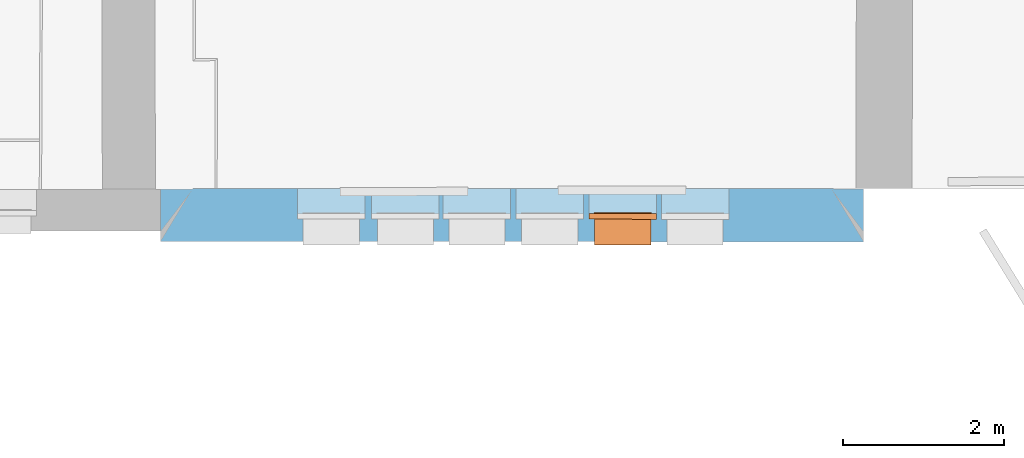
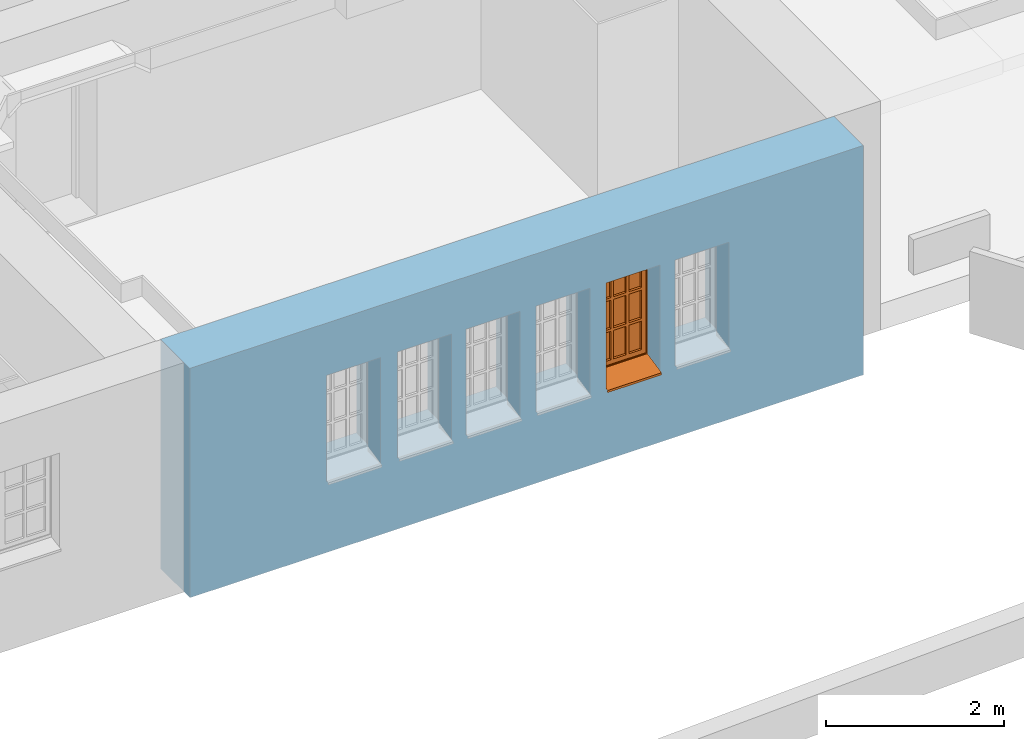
# One storey, part 80 of 196: 1 proxy, 6 openings, plus 1 element that does not belong to this part.
"""IFC2X3 building model written with IfcOpenShell, lengths in metres."""

from ifc_helpers import new_model, entity, si_unit, converted_unit, derived_unit, money_unit, direction, frame, origin_with_axes, origin_2d_with_axis, place, context, subcontext, project, spatial, polyline, rectangle, outline, extrude, boolean, open_shell, faceted_brep, surface_model, material, type_object, element, fill, save


model = new_model("IFC2X3")

# Units and contexts
model_context = context("Model", 3, precision=1e-05, world=origin_with_axes(), true_north=direction((0.0, 1.0)))
body_context = subcontext(model_context, "Body", "Model", "MODEL_VIEW")
ifc_project = project(units=[si_unit("LENGTHUNIT", "METRE"), si_unit("AREAUNIT", "SQUARE_METRE"), si_unit("VOLUMEUNIT", "CUBIC_METRE"), converted_unit("PLANEANGLEUNIT", "DEGREE", entity("IfcPlaneAngleMeasure", 0.0174532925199), si_unit("PLANEANGLEUNIT", "RADIAN"), dimensions=[0, 0, 0, 0, 0, 0, 0]), money_unit("EUR"), converted_unit("TIMEUNIT", "Year", entity("IfcTimeMeasure", 31556926.0), si_unit("TIMEUNIT", "SECOND"), dimensions=[0, 0, 1, 0, 0, 0, 0]), si_unit("MASSUNIT", "GRAM", prefix="KILO"), si_unit("THERMODYNAMICTEMPERATUREUNIT", "DEGREE_CELSIUS"), si_unit("LUMINOUSINTENSITYUNIT", "LUMEN"), si_unit("ENERGYUNIT", "JOULE", prefix="MEGA"), derived_unit("THERMALCONDUCTANCEUNIT", [(si_unit("POWERUNIT", "WATT"), 1), (si_unit("LENGTHUNIT", "METRE"), -1), (si_unit("THERMODYNAMICTEMPERATUREUNIT", "KELVIN"), -1)]), derived_unit("SPECIFICHEATCAPACITYUNIT", [(si_unit("ENERGYUNIT", "JOULE"), 1), (si_unit("MASSUNIT", "GRAM", prefix="KILO"), -1), (si_unit("THERMODYNAMICTEMPERATUREUNIT", "KELVIN"), -1)]), derived_unit("MASSDENSITYUNIT", [(si_unit("MASSUNIT", "GRAM", prefix="KILO"), 1), (si_unit("VOLUMEUNIT", "CUBIC_METRE"), -1)])], contexts=[model_context])

# Site, building, storey
site_placement = place(None, origin_with_axes())
site = spatial("IfcSite", under=ifc_project, at=site_placement, Name="Gelände", CompositionType="ELEMENT")
building_placement = place(site_placement, origin_with_axes())
building = spatial("IfcBuilding", under=site, at=building_placement, Name="Gebäude", CompositionType="ELEMENT")
storey_placement = place(building_placement, frame((0.0, 0.0, -3.0), z_axis=(0.0, 0.0, 1.0), x_axis=(1.0, 0.0, 0.0)))
storey = spatial("IfcBuildingStorey", under=building, at=storey_placement, Name="KELLERGESCHOSS", CompositionType="ELEMENT", Elevation=-3.0)

# Wall, openings, proxy
ifc_material = material(Name="05_ALLGEMEIN - TRAGENDE BAUTEILE")
wall_type = type_object("IfcWallType", Name="05_ALLGEMEIN - TRAGENDE BAUTEILE 660", PredefinedType="ELEMENTEDWALL")
wall_placement = place(storey_placement, frame((3.68030708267, 9.80941916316, -0.36), z_axis=(0.0, 0.0, 1.0), x_axis=(0.999999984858, -0.000174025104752, 0.0)))
wall = element("IfcWall", 1, at=wall_placement, inside=storey, type_object=wall_type, material=ifc_material, Name="Wand-032", ObjectType="ELEMENTEDWALL", context=body_context, shape_type="CSG", body=[
    boolean("DIFFERENCE", extrude(outline(polyline([(0.0, 0.0), (8.74672447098, 0.0), (8.74672447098, 0.66), (0.0, 0.66), (0.0, 0.0)])), origin_with_axes(), (0.0, 0.0, 1.0), 3.15), faceted_brep([(8.36400803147, 0.66, 3.15), (8.36400803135, 0.66, 3.065), (8.74672447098, 0.66, 3.065), (8.74672447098, 0.66, 0.0), (0.0, 0.66, 0.0), (0.0, 0.66, 3.15), (0.396377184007, 0.651638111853, 3.15), (0.396377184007, 0.651638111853, 0.0), (8.3467354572, 0.659981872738, 0.0), (8.3467354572, 0.659981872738, 3.065), (8.74672447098, 0.0, 3.065), (8.74672447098, 0.0, 0.0), (0.0, 0.0, 0.0), (0.0, 0.0, 3.15)], [[[0, 1, 2, 3, 4, 5]], [[1, 0, 6, 7, 8, 9]], [[10, 2, 1, 9]], [[10, 11, 3, 2]], [[7, 12, 4, 3, 11, 8]], [[12, 13, 5, 4]], [[6, 0, 5, 13]], [[6, 13, 12, 7]], [[11, 10, 9, 8]]])),
])
opening_1_placement = place(wall_placement, frame((6.65087656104, 0.0, 0.977921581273), z_axis=(0.0, 0.0, 1.0), x_axis=(1.0, 0.0, 0.0)))
element("IfcOpeningElement", 2, at=opening_1_placement, cuts=wall, Name="Fenster-015", context=body_context, shape_type="SweptSolid", body=[
    extrude(rectangle(XDim=0.840207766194, YDim=1.52470991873, at=origin_2d_with_axis()), frame((0.0, 0.28, 0.762354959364), z_axis=(0.0, -1.0, 0.0), x_axis=(1.0, 0.0, 0.0)), (0.0, 0.0, -1.0), 1.04),
    extrude(rectangle(XDim=0.700207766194, YDim=1.45470991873, at=origin_2d_with_axis()), frame((0.0, 0.28, 0.727354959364), z_axis=(0.0, 1.0, 0.0), x_axis=(1.0, 0.0, 0.0)), (0.0, 0.0, -1.0), 0.94),
])
opening_2_placement = place(wall_placement, frame((5.75227144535, 0.0, 0.977921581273), z_axis=(0.0, 0.0, 1.0), x_axis=(1.0, 0.0, 0.0)))
opening_2 = element("IfcOpeningElement", 3, at=opening_2_placement, cuts=wall, Name="Fenster-015", context=body_context, shape_type="SweptSolid", body=[
    extrude(rectangle(XDim=0.840207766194, YDim=1.52470991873, at=origin_2d_with_axis()), frame((0.0, 0.28, 0.762354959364), z_axis=(0.0, -1.0, 0.0), x_axis=(1.0, 0.0, 0.0)), (0.0, 0.0, -1.0), 1.04),
    extrude(rectangle(XDim=0.700207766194, YDim=1.45470991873, at=origin_2d_with_axis()), frame((0.0, 0.28, 0.727354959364), z_axis=(0.0, 1.0, 0.0), x_axis=(1.0, 0.0, 0.0)), (0.0, 0.0, -1.0), 0.94),
])
opening_3_placement = place(wall_placement, frame((2.12414616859, 0.0, 0.977921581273), z_axis=(0.0, 0.0, 1.0), x_axis=(1.0, 0.0, 0.0)))
element("IfcOpeningElement", 4, at=opening_3_placement, cuts=wall, Name="Fenster-015", context=body_context, shape_type="SweptSolid", body=[
    extrude(rectangle(XDim=0.840207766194, YDim=1.52470991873, at=origin_2d_with_axis()), frame((0.0, 0.28, 0.762354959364), z_axis=(0.0, -1.0, 0.0), x_axis=(1.0, 0.0, 0.0)), (0.0, 0.0, -1.0), 1.04),
    extrude(rectangle(XDim=0.700207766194, YDim=1.45470991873, at=origin_2d_with_axis()), frame((0.0, 0.28, 0.727354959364), z_axis=(0.0, 1.0, 0.0), x_axis=(1.0, 0.0, 0.0)), (0.0, 0.0, -1.0), 0.94),
])
opening_4_placement = place(wall_placement, frame((3.04781651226, 0.0, 0.977921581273), z_axis=(0.0, 0.0, 1.0), x_axis=(1.0, 0.0, 0.0)))
element("IfcOpeningElement", 5, at=opening_4_placement, cuts=wall, Name="Fenster-015", context=body_context, shape_type="SweptSolid", body=[
    extrude(rectangle(XDim=0.840207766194, YDim=1.52470991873, at=origin_2d_with_axis()), frame((0.0, 0.28, 0.762354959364), z_axis=(0.0, -1.0, 0.0), x_axis=(1.0, 0.0, 0.0)), (0.0, 0.0, -1.0), 1.04),
    extrude(rectangle(XDim=0.700207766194, YDim=1.45470991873, at=origin_2d_with_axis()), frame((0.0, 0.28, 0.727354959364), z_axis=(0.0, 1.0, 0.0), x_axis=(1.0, 0.0, 0.0)), (0.0, 0.0, -1.0), 0.94),
])
opening_5_placement = place(wall_placement, frame((3.9368208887, 0.0, 0.977921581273), z_axis=(0.0, 0.0, 1.0), x_axis=(1.0, 0.0, 0.0)))
element("IfcOpeningElement", 6, at=opening_5_placement, cuts=wall, Name="Fenster-015", context=body_context, shape_type="SweptSolid", body=[
    extrude(rectangle(XDim=0.840207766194, YDim=1.52470991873, at=origin_2d_with_axis()), frame((0.0, 0.28, 0.762354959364), z_axis=(0.0, -1.0, 0.0), x_axis=(1.0, 0.0, 0.0)), (0.0, 0.0, -1.0), 1.04),
    extrude(rectangle(XDim=0.700207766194, YDim=1.45470991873, at=origin_2d_with_axis()), frame((0.0, 0.28, 0.727354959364), z_axis=(0.0, 1.0, 0.0), x_axis=(1.0, 0.0, 0.0)), (0.0, 0.0, -1.0), 0.94),
])
opening_6_placement = place(wall_placement, frame((4.8431156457, 0.0, 0.977921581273), z_axis=(0.0, 0.0, 1.0), x_axis=(1.0, 0.0, 0.0)))
element("IfcOpeningElement", 7, at=opening_6_placement, cuts=wall, Name="Fenster-015", context=body_context, shape_type="SweptSolid", body=[
    extrude(rectangle(XDim=0.840207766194, YDim=1.52470991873, at=origin_2d_with_axis()), frame((0.0, 0.28, 0.762354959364), z_axis=(0.0, -1.0, 0.0), x_axis=(1.0, 0.0, 0.0)), (0.0, 0.0, -1.0), 1.04),
    extrude(rectangle(XDim=0.700207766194, YDim=1.45470991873, at=origin_2d_with_axis()), frame((0.0, 0.28, 0.727354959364), z_axis=(0.0, 1.0, 0.0), x_axis=(1.0, 0.0, 0.0)), (0.0, 0.0, -1.0), 0.94),
])
building_element_proxy_type = type_object("IfcBuildingElementProxyType", Name="1-Flügelfenster 25", PredefinedType="NOTDEFINED")
proxy_placement = place(opening_2_placement, frame((-0.420103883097, 0.0, 0.0), z_axis=(0.0, 0.0, 1.0), x_axis=(1.0, 0.0, 0.0)))
proxy = element("IfcBuildingElementProxy", 8, at=proxy_placement, inside=storey, type_object=building_element_proxy_type, Name="Fenster-015", context=body_context, shape_type="SurfaceModel", body=[
    surface_model("IfcShellBasedSurfaceModel", [(0.07, 0.279, 0.08), (0.07, 0.279, 0.07), (0.770207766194, 0.279, 0.07), (0.770207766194, 0.279, 0.08), (0.07, -0.04, 0.00142857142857), (0.770207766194, -0.04, 0.00142857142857), (0.07, -0.04, -0.0285714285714), (0.770207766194, -0.04, -0.0285714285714), (0.07, -0.025, -0.0135714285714), (0.770207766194, -0.025, -0.0135714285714)], [open_shell([[[0, 1, 2, 3]], [[1, 4, 5, 2]], [[4, 6, 7, 5]], [[6, 8, 9, 7]]])]),
    faceted_brep([(0.07, 0.28, 0.0689771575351), (0.07, 0.0, 0.00878906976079), (0.770207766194, 0.0, 0.00878906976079), (0.770207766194, 0.28, 0.0689771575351), (0.07, 0.28, 0.0), (0.07, 0.0, 0.0), (0.770207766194, 0.0, 0.0), (0.770207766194, 0.28, 0.0)], [[[0, 1, 2, 3]], [[0, 4, 5, 1]], [[1, 5, 6, 2]], [[3, 2, 6, 7]], [[4, 0, 3, 7]], [[5, 4, 7, 6]]]),
    faceted_brep([(0.0, 0.28, 0.0), (0.0, 0.35, 0.0), (0.08, 0.35, 0.08), (0.08, 0.28, 0.08), (0.0, 0.28, 1.52470991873), (0.0, 0.35, 1.52470991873), (0.08, 0.35, 1.44470991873), (0.08, 0.28, 1.44470991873)], [[[0, 1, 2, 3]], [[4, 5, 1, 0]], [[1, 5, 6, 2]], [[3, 2, 6, 7]], [[0, 3, 7, 4]], [[7, 6, 5, 4]]]),
    faceted_brep([(0.840207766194, 0.28, 0.0), (0.840207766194, 0.35, 0.0), (0.840207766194, 0.35, 1.52470991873), (0.840207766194, 0.28, 1.52470991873), (0.760207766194, 0.28, 0.08), (0.760207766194, 0.35, 0.08), (0.760207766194, 0.35, 1.44470991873), (0.760207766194, 0.28, 1.44470991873)], [[[0, 1, 2, 3]], [[4, 5, 1, 0]], [[1, 5, 6, 2]], [[3, 2, 6, 7]], [[0, 3, 7, 4]], [[7, 6, 5, 4]]]),
    faceted_brep([(0.0, 0.28, 0.0), (0.0, 0.35, 0.0), (0.840207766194, 0.35, 0.0), (0.840207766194, 0.28, 0.0), (0.08, 0.28, 0.08), (0.08, 0.35, 0.08), (0.420103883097, 0.35, 0.08), (0.760207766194, 0.35, 0.08), (0.760207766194, 0.28, 0.08), (0.420103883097, 0.28, 0.08)], [[[0, 1, 2, 3]], [[4, 5, 1, 0]], [[1, 5, 6, 7, 2]], [[3, 2, 7, 8]], [[0, 3, 8, 9, 4]], [[9, 6, 5, 4]], [[8, 7, 6, 9]]]),
    faceted_brep([(0.0, 0.28, 1.52470991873), (0.0, 0.35, 1.52470991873), (0.08, 0.35, 1.44470991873), (0.08, 0.28, 1.44470991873), (0.840207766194, 0.28, 1.52470991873), (0.840207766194, 0.35, 1.52470991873), (0.760207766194, 0.35, 1.44470991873), (0.420103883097, 0.35, 1.44470991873), (0.420103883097, 0.28, 1.44470991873), (0.760207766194, 0.28, 1.44470991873)], [[[0, 1, 2, 3]], [[4, 5, 1, 0]], [[1, 5, 6, 7, 2]], [[3, 2, 7, 8]], [[0, 3, 8, 9, 4]], [[9, 6, 5, 4]], [[8, 7, 6, 9]]]),
    faceted_brep([(0.06, 0.35, 0.06), (0.06, 0.363, 0.06), (0.14, 0.363, 0.14), (0.14, 0.35, 0.14), (0.06, 0.35, 1.46470991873), (0.06, 0.363, 1.46470991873), (0.14, 0.363, 1.38470991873), (0.14, 0.35, 1.38470991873)], [[[0, 1, 2, 3]], [[4, 5, 1, 0]], [[1, 5, 6, 2]], [[3, 2, 6, 7]], [[0, 3, 7, 4]], [[7, 6, 5, 4]]]),
    faceted_brep([(0.780207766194, 0.35, 0.06), (0.700207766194, 0.35, 0.14), (0.700207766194, 0.363, 0.14), (0.780207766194, 0.363, 0.06), (0.780207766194, 0.35, 1.46470991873), (0.700207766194, 0.35, 1.38470991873), (0.700207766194, 0.363, 1.38470991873), (0.780207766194, 0.363, 1.46470991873)], [[[0, 1, 2, 3]], [[0, 4, 5, 1]], [[1, 5, 6, 2]], [[3, 2, 6, 7]], [[4, 0, 3, 7]], [[5, 4, 7, 6]]]),
    faceted_brep([(0.06, 0.35, 0.06), (0.06, 0.363, 0.06), (0.780207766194, 0.363, 0.06), (0.780207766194, 0.35, 0.06), (0.14, 0.35, 0.14), (0.14, 0.363, 0.14), (0.700207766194, 0.363, 0.14), (0.700207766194, 0.35, 0.14)], [[[0, 1, 2, 3]], [[4, 5, 1, 0]], [[1, 5, 6, 2]], [[3, 2, 6, 7]], [[0, 3, 7, 4]], [[7, 6, 5, 4]]]),
    faceted_brep([(0.06, 0.35, 1.46470991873), (0.780207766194, 0.35, 1.46470991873), (0.780207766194, 0.363, 1.46470991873), (0.06, 0.363, 1.46470991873), (0.14, 0.35, 1.38470991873), (0.700207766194, 0.35, 1.38470991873), (0.700207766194, 0.363, 1.38470991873), (0.14, 0.363, 1.38470991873)], [[[0, 1, 2, 3]], [[0, 4, 5, 1]], [[1, 5, 6, 2]], [[3, 2, 6, 7]], [[4, 0, 3, 7]], [[5, 4, 7, 6]]]),
    faceted_brep([(0.08, 0.293, 0.08), (0.08, 0.35, 0.08), (0.14, 0.35, 0.14), (0.14, 0.293, 0.14), (0.08, 0.293, 1.44470991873), (0.08, 0.35, 1.44470991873), (0.14, 0.35, 1.38470991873), (0.14, 0.293, 1.38470991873)], [[[0, 1, 2, 3]], [[4, 5, 1, 0]], [[1, 5, 6, 2]], [[3, 2, 6, 7]], [[0, 3, 7, 4]], [[7, 6, 5, 4]]]),
    faceted_brep([(0.760207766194, 0.293, 0.08), (0.700207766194, 0.293, 0.14), (0.700207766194, 0.35, 0.14), (0.760207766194, 0.35, 0.08), (0.760207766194, 0.293, 1.44470991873), (0.700207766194, 0.293, 1.38470991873), (0.700207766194, 0.35, 1.38470991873), (0.760207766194, 0.35, 1.44470991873)], [[[0, 1, 2, 3]], [[0, 4, 5, 1]], [[1, 5, 6, 2]], [[3, 2, 6, 7]], [[4, 0, 3, 7]], [[5, 4, 7, 6]]]),
    faceted_brep([(0.08, 0.293, 0.08), (0.08, 0.35, 0.08), (0.760207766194, 0.35, 0.08), (0.760207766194, 0.293, 0.08), (0.14, 0.293, 0.14), (0.14, 0.35, 0.14), (0.700207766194, 0.35, 0.14), (0.700207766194, 0.293, 0.14)], [[[0, 1, 2, 3]], [[4, 5, 1, 0]], [[1, 5, 6, 2]], [[3, 2, 6, 7]], [[0, 3, 7, 4]], [[7, 6, 5, 4]]]),
    faceted_brep([(0.08, 0.293, 1.44470991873), (0.760207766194, 0.293, 1.44470991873), (0.760207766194, 0.35, 1.44470991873), (0.08, 0.35, 1.44470991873), (0.14, 0.293, 1.38470991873), (0.700207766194, 0.293, 1.38470991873), (0.700207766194, 0.35, 1.38470991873), (0.14, 0.35, 1.38470991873)], [[[0, 1, 2, 3]], [[0, 4, 5, 1]], [[1, 5, 6, 2]], [[3, 2, 6, 7]], [[4, 0, 3, 7]], [[5, 4, 7, 6]]]),
    faceted_brep([(0.303402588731, 0.293, 0.14), (0.303402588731, 0.328, 0.14), (0.338402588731, 0.328, 0.14), (0.338402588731, 0.293, 0.14), (0.303402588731, 0.293, 1.38470991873), (0.303402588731, 0.328, 1.38470991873), (0.338402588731, 0.328, 1.38470991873), (0.338402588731, 0.293, 1.38470991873)], [[[0, 1, 2, 3]], [[4, 5, 1, 0]], [[1, 5, 6, 2]], [[3, 2, 6, 7]], [[0, 3, 7, 4]], [[7, 6, 5, 4]]]),
    faceted_brep([(0.303402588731, 0.328, 0.14), (0.303402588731, 0.363, 0.14), (0.338402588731, 0.363, 0.14), (0.338402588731, 0.328, 0.14), (0.303402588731, 0.328, 1.38470991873), (0.303402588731, 0.363, 1.38470991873), (0.338402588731, 0.363, 1.38470991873), (0.338402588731, 0.328, 1.38470991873)], [[[0, 1, 2, 3]], [[4, 5, 1, 0]], [[1, 5, 6, 2]], [[3, 2, 6, 7]], [[0, 3, 7, 4]], [[7, 6, 5, 4]]]),
    faceted_brep([(0.501805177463, 0.293, 0.14), (0.501805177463, 0.328, 0.14), (0.536805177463, 0.328, 0.14), (0.536805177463, 0.293, 0.14), (0.501805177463, 0.293, 1.38470991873), (0.501805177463, 0.328, 1.38470991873), (0.536805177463, 0.328, 1.38470991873), (0.536805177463, 0.293, 1.38470991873)], [[[0, 1, 2, 3]], [[4, 5, 1, 0]], [[1, 5, 6, 2]], [[3, 2, 6, 7]], [[0, 3, 7, 4]], [[7, 6, 5, 4]]]),
    faceted_brep([(0.501805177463, 0.328, 0.14), (0.501805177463, 0.363, 0.14), (0.536805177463, 0.363, 0.14), (0.536805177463, 0.328, 0.14), (0.501805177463, 0.328, 1.38470991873), (0.501805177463, 0.363, 1.38470991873), (0.536805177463, 0.363, 1.38470991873), (0.536805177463, 0.328, 1.38470991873)], [[[0, 1, 2, 3]], [[4, 5, 1, 0]], [[1, 5, 6, 2]], [[3, 2, 6, 7]], [[0, 3, 7, 4]], [[7, 6, 5, 4]]]),
    faceted_brep([(0.501805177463, 0.293, 0.531569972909), (0.501805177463, 0.293, 0.566569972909), (0.338402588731, 0.293, 0.566569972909), (0.338402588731, 0.293, 0.531569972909), (0.501805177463, 0.328, 0.566569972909), (0.501805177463, 0.328, 0.531569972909), (0.338402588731, 0.328, 0.566569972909), (0.338402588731, 0.328, 0.531569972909)], [[[0, 1, 2, 3]], [[4, 1, 0, 5]], [[1, 4, 6, 2]], [[2, 6, 7, 3]], [[5, 0, 3, 7]], [[4, 5, 7, 6]]]),
    faceted_brep([(0.14, 0.293, 0.566569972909), (0.14, 0.293, 0.531569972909), (0.303402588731, 0.293, 0.531569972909), (0.303402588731, 0.293, 0.566569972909), (0.14, 0.328, 0.566569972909), (0.14, 0.328, 0.531569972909), (0.303402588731, 0.328, 0.531569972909), (0.303402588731, 0.328, 0.566569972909)], [[[0, 1, 2, 3]], [[1, 0, 4, 5]], [[1, 5, 6, 2]], [[2, 6, 7, 3]], [[4, 0, 3, 7]], [[5, 4, 7, 6]]]),
    faceted_brep([(0.536805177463, 0.328, 0.566569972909), (0.536805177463, 0.293, 0.566569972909), (0.700207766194, 0.293, 0.566569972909), (0.700207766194, 0.328, 0.566569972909), (0.536805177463, 0.293, 0.531569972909), (0.536805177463, 0.328, 0.531569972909), (0.700207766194, 0.293, 0.531569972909), (0.700207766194, 0.328, 0.531569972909)], [[[0, 1, 2, 3]], [[4, 1, 0, 5]], [[1, 4, 6, 2]], [[3, 2, 6, 7]], [[5, 0, 3, 7]], [[4, 5, 7, 6]]]),
    faceted_brep([(0.501805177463, 0.328, 0.531569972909), (0.501805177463, 0.328, 0.566569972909), (0.338402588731, 0.328, 0.566569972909), (0.338402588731, 0.328, 0.531569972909), (0.501805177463, 0.363, 0.566569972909), (0.501805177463, 0.363, 0.531569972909), (0.338402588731, 0.363, 0.566569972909), (0.338402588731, 0.363, 0.531569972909)], [[[0, 1, 2, 3]], [[4, 1, 0, 5]], [[1, 4, 6, 2]], [[2, 6, 7, 3]], [[5, 0, 3, 7]], [[4, 5, 7, 6]]]),
    faceted_brep([(0.14, 0.328, 0.566569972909), (0.14, 0.328, 0.531569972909), (0.303402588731, 0.328, 0.531569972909), (0.303402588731, 0.328, 0.566569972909), (0.14, 0.363, 0.566569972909), (0.14, 0.363, 0.531569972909), (0.303402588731, 0.363, 0.531569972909), (0.303402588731, 0.363, 0.566569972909)], [[[0, 1, 2, 3]], [[1, 0, 4, 5]], [[1, 5, 6, 2]], [[2, 6, 7, 3]], [[4, 0, 3, 7]], [[5, 4, 7, 6]]]),
    faceted_brep([(0.536805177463, 0.363, 0.566569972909), (0.536805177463, 0.328, 0.566569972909), (0.700207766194, 0.328, 0.566569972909), (0.700207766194, 0.363, 0.566569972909), (0.536805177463, 0.328, 0.531569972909), (0.536805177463, 0.363, 0.531569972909), (0.700207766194, 0.328, 0.531569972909), (0.700207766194, 0.363, 0.531569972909)], [[[0, 1, 2, 3]], [[4, 1, 0, 5]], [[1, 4, 6, 2]], [[3, 2, 6, 7]], [[5, 0, 3, 7]], [[4, 5, 7, 6]]]),
    faceted_brep([(0.501805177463, 0.293, 0.958139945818), (0.501805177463, 0.293, 0.993139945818), (0.338402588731, 0.293, 0.993139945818), (0.338402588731, 0.293, 0.958139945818), (0.501805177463, 0.328, 0.993139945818), (0.501805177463, 0.328, 0.958139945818), (0.338402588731, 0.328, 0.993139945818), (0.338402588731, 0.328, 0.958139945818)], [[[0, 1, 2, 3]], [[4, 1, 0, 5]], [[1, 4, 6, 2]], [[2, 6, 7, 3]], [[5, 0, 3, 7]], [[4, 5, 7, 6]]]),
    faceted_brep([(0.14, 0.293, 0.993139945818), (0.14, 0.293, 0.958139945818), (0.303402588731, 0.293, 0.958139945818), (0.303402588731, 0.293, 0.993139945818), (0.14, 0.328, 0.993139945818), (0.14, 0.328, 0.958139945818), (0.303402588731, 0.328, 0.958139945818), (0.303402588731, 0.328, 0.993139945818)], [[[0, 1, 2, 3]], [[1, 0, 4, 5]], [[1, 5, 6, 2]], [[2, 6, 7, 3]], [[4, 0, 3, 7]], [[5, 4, 7, 6]]]),
    faceted_brep([(0.536805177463, 0.328, 0.993139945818), (0.536805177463, 0.293, 0.993139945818), (0.700207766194, 0.293, 0.993139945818), (0.700207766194, 0.328, 0.993139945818), (0.536805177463, 0.293, 0.958139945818), (0.536805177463, 0.328, 0.958139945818), (0.700207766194, 0.293, 0.958139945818), (0.700207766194, 0.328, 0.958139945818)], [[[0, 1, 2, 3]], [[4, 1, 0, 5]], [[1, 4, 6, 2]], [[3, 2, 6, 7]], [[5, 0, 3, 7]], [[4, 5, 7, 6]]]),
    faceted_brep([(0.501805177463, 0.328, 0.958139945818), (0.501805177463, 0.328, 0.993139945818), (0.338402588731, 0.328, 0.993139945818), (0.338402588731, 0.328, 0.958139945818), (0.501805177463, 0.363, 0.993139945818), (0.501805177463, 0.363, 0.958139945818), (0.338402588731, 0.363, 0.993139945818), (0.338402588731, 0.363, 0.958139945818)], [[[0, 1, 2, 3]], [[4, 1, 0, 5]], [[1, 4, 6, 2]], [[2, 6, 7, 3]], [[5, 0, 3, 7]], [[4, 5, 7, 6]]]),
    faceted_brep([(0.14, 0.328, 0.993139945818), (0.14, 0.328, 0.958139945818), (0.303402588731, 0.328, 0.958139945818), (0.303402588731, 0.328, 0.993139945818), (0.14, 0.363, 0.993139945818), (0.14, 0.363, 0.958139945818), (0.303402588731, 0.363, 0.958139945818), (0.303402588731, 0.363, 0.993139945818)], [[[0, 1, 2, 3]], [[1, 0, 4, 5]], [[1, 5, 6, 2]], [[2, 6, 7, 3]], [[4, 0, 3, 7]], [[5, 4, 7, 6]]]),
    faceted_brep([(0.536805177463, 0.363, 0.993139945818), (0.536805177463, 0.328, 0.993139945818), (0.700207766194, 0.328, 0.993139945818), (0.700207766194, 0.363, 0.993139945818), (0.536805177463, 0.328, 0.958139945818), (0.536805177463, 0.363, 0.958139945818), (0.700207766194, 0.328, 0.958139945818), (0.700207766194, 0.363, 0.958139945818)], [[[0, 1, 2, 3]], [[4, 1, 0, 5]], [[1, 4, 6, 2]], [[3, 2, 6, 7]], [[5, 0, 3, 7]], [[4, 5, 7, 6]]]),
    faceted_brep([(0.303402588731, 0.333, 0.958139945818), (0.303402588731, 0.323, 0.958139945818), (0.303402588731, 0.323, 0.566569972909), (0.303402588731, 0.333, 0.566569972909), (0.14, 0.323, 0.958139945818), (0.14, 0.333, 0.958139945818), (0.14, 0.323, 0.566569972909), (0.14, 0.333, 0.566569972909)], [[[0, 1, 2, 3]], [[4, 1, 0, 5]], [[1, 4, 6, 2]], [[2, 6, 7, 3]], [[5, 0, 3, 7]], [[4, 5, 7, 6]]]),
    faceted_brep([(0.700207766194, 0.323, 0.14), (0.700207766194, 0.333, 0.14), (0.700207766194, 0.333, 0.531569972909), (0.700207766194, 0.323, 0.531569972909), (0.536805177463, 0.323, 0.14), (0.536805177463, 0.333, 0.14), (0.536805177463, 0.333, 0.531569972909), (0.536805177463, 0.323, 0.531569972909)], [[[0, 1, 2, 3]], [[0, 4, 5, 1]], [[1, 5, 6, 2]], [[2, 6, 7, 3]], [[4, 0, 3, 7]], [[5, 4, 7, 6]]]),
    faceted_brep([(0.501805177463, 0.323, 0.14), (0.501805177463, 0.333, 0.14), (0.501805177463, 0.333, 0.531569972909), (0.501805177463, 0.323, 0.531569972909), (0.338402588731, 0.333, 0.14), (0.338402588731, 0.323, 0.14), (0.338402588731, 0.333, 0.531569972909), (0.338402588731, 0.323, 0.531569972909)], [[[0, 1, 2, 3]], [[4, 1, 0, 5]], [[1, 4, 6, 2]], [[2, 6, 7, 3]], [[5, 0, 3, 7]], [[4, 5, 7, 6]]]),
    faceted_brep([(0.303402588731, 0.323, 0.14), (0.303402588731, 0.333, 0.14), (0.303402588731, 0.333, 0.531569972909), (0.303402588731, 0.323, 0.531569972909), (0.14, 0.323, 0.14), (0.14, 0.333, 0.14), (0.14, 0.333, 0.531569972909), (0.14, 0.323, 0.531569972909)], [[[0, 1, 2, 3]], [[0, 4, 5, 1]], [[1, 5, 6, 2]], [[2, 6, 7, 3]], [[4, 0, 3, 7]], [[5, 4, 7, 6]]]),
    faceted_brep([(0.700207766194, 0.333, 0.958139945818), (0.700207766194, 0.323, 0.958139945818), (0.700207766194, 0.323, 0.566569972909), (0.700207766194, 0.333, 0.566569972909), (0.536805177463, 0.323, 0.958139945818), (0.536805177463, 0.333, 0.958139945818), (0.536805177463, 0.323, 0.566569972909), (0.536805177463, 0.333, 0.566569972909)], [[[0, 1, 2, 3]], [[4, 1, 0, 5]], [[1, 4, 6, 2]], [[2, 6, 7, 3]], [[5, 0, 3, 7]], [[4, 5, 7, 6]]]),
    faceted_brep([(0.501805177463, 0.333, 0.958139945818), (0.501805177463, 0.323, 0.958139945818), (0.501805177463, 0.323, 0.566569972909), (0.501805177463, 0.333, 0.566569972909), (0.338402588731, 0.323, 0.958139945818), (0.338402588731, 0.333, 0.958139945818), (0.338402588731, 0.323, 0.566569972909), (0.338402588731, 0.333, 0.566569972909)], [[[0, 1, 2, 3]], [[4, 1, 0, 5]], [[1, 4, 6, 2]], [[2, 6, 7, 3]], [[5, 0, 3, 7]], [[4, 5, 7, 6]]]),
    faceted_brep([(0.14, 0.323, 0.993139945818), (0.303402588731, 0.323, 0.993139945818), (0.303402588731, 0.323, 1.38470991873), (0.14, 0.323, 1.38470991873), (0.303402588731, 0.333, 0.993139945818), (0.14, 0.333, 0.993139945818), (0.303402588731, 0.333, 1.38470991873), (0.14, 0.333, 1.38470991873)], [[[0, 1, 2, 3]], [[4, 1, 0, 5]], [[1, 4, 6, 2]], [[2, 6, 7, 3]], [[5, 0, 3, 7]], [[4, 5, 7, 6]]]),
    faceted_brep([(0.536805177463, 0.323, 0.993139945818), (0.700207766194, 0.323, 0.993139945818), (0.700207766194, 0.323, 1.38470991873), (0.536805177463, 0.323, 1.38470991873), (0.700207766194, 0.333, 0.993139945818), (0.536805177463, 0.333, 0.993139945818), (0.700207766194, 0.333, 1.38470991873), (0.536805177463, 0.333, 1.38470991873)], [[[0, 1, 2, 3]], [[4, 1, 0, 5]], [[1, 4, 6, 2]], [[2, 6, 7, 3]], [[5, 0, 3, 7]], [[4, 5, 7, 6]]]),
    faceted_brep([(0.338402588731, 0.323, 0.993139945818), (0.501805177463, 0.323, 0.993139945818), (0.501805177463, 0.323, 1.38470991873), (0.338402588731, 0.323, 1.38470991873), (0.501805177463, 0.333, 0.993139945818), (0.338402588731, 0.333, 0.993139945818), (0.501805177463, 0.333, 1.38470991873), (0.338402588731, 0.333, 1.38470991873)], [[[0, 1, 2, 3]], [[4, 1, 0, 5]], [[1, 4, 6, 2]], [[7, 3, 2, 6]], [[5, 0, 3, 7]], [[4, 5, 7, 6]]]),
])
fill(opening_2, proxy)

save(model, "model.ifc")
